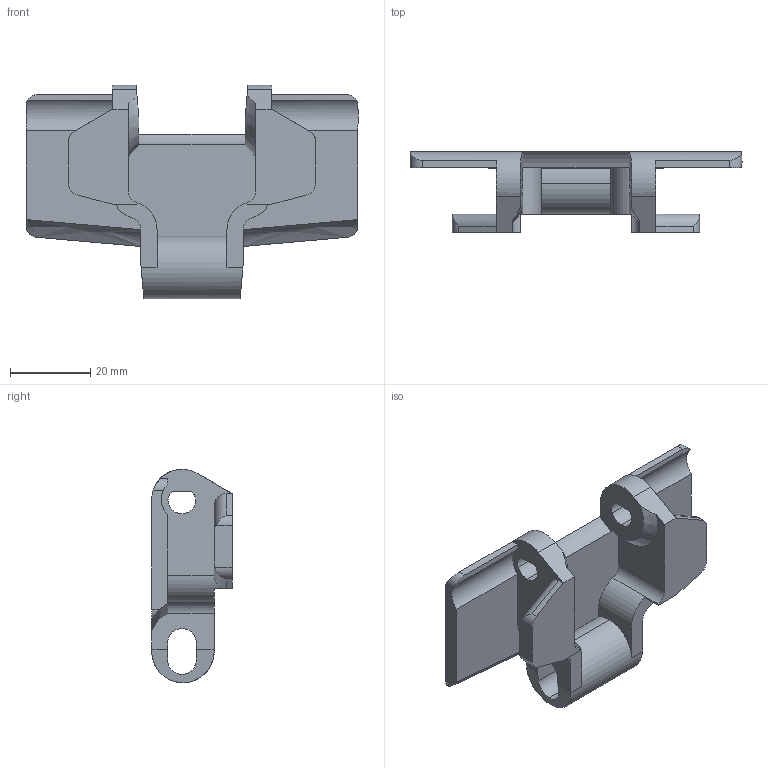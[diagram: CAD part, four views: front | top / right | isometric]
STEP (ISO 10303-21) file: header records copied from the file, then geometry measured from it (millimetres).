
FILE_DESCRIPTION (( 'STEP AP214' ), '1' );
FILE_NAME ('880TAB_K325.STEP', '2011-04-14T11:46:16', ( '.' ), ( '' ), 'SwSTEP 2.0', 'SolidWorks 2010', '' );
FILE_SCHEMA (( 'AUTOMOTIVE_DESIGN' ));
Length unit declared in the file: millimetre
Products named in the file (1): 880TAB_K325
Bounding box: 82.6 x 20 x 53.1 mm (x, y, z)
Volume: 19704.3 mm3; surface area: 11873.9 mm2
Topology: 1 solids, 1 shells, 94 faces, 283 edges, 187 vertices
Faces by surface type: plane 46, cylinder 43, cone 3, bspline 2
Entity records: 3326 total; most frequent: CARTESIAN_POINT 787, ORIENTED_EDGE 566, DIRECTION 500, EDGE_CURVE 283, VERTEX_POINT 187, VECTOR 168, LINE 168, AXIS2_PLACEMENT_3D 166
